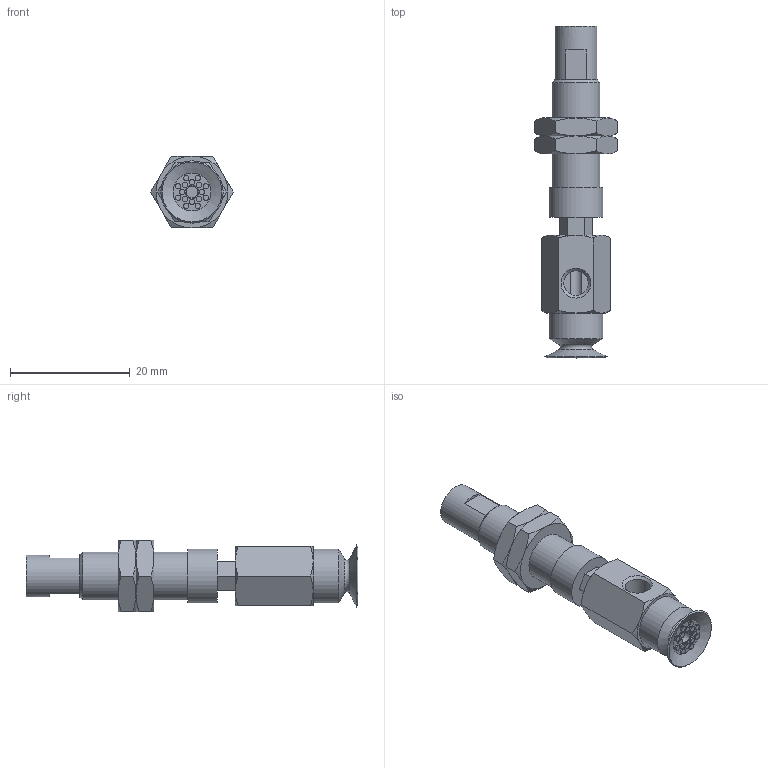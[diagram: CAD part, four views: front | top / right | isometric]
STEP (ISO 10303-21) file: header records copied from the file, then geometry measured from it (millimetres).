
FILE_DESCRIPTION(('STEP AP203'),'1');
FILE_NAME('.stp','2025-03-13T02:46:21',(' '),(' '),'Spatial InterOp 3D',' ',' ');
FILE_SCHEMA(('CONFIG_CONTROL_DESIGN'));
Length unit declared in the file: millimetre
Products named in the file (6): BNABPAYH-10A-3-※; NAPATH-10A-3--M; NAPATH-10A-3--F; Nut-10A-S; CONNECTOR-10A-3-PA; BPAG-10A-※
Assembly tree (6 placements, depth 2):
  BNABPAYH-10A-3-※
    NAPATH-10A-3--M
    NAPATH-10A-3--F
    Nut-10A-S  x2
    CONNECTOR-10A-3-PA
    BPAG-10A-※
Bounding box: 13.86 x 55.5 x 12 mm (x, y, z)
Volume: 3380.3 mm3; surface area: 4108.9 mm2
Topology: 6 solids, 6 shells, 171 faces, 349 edges, 215 vertices
Faces by surface type: plane 79, cone 51, cylinder 31, torus 10
Full cylindrical faces by diameter (mm): 0.9 x16, 2 x2, 4 x2, 4.134 x2, 5 x1, 6 x2, 7 x1, 7.188 x2, 8 x1, 9 x2
Entity records: 4084 total; most frequent: CARTESIAN_POINT 923, DIRECTION 608, ORIENTED_EDGE 482, AXIS2_PLACEMENT_3D 266, EDGE_CURVE 241, EDGE_LOOP 234, FACE_OUTER_BOUND 188, VERTEX_POINT 179
